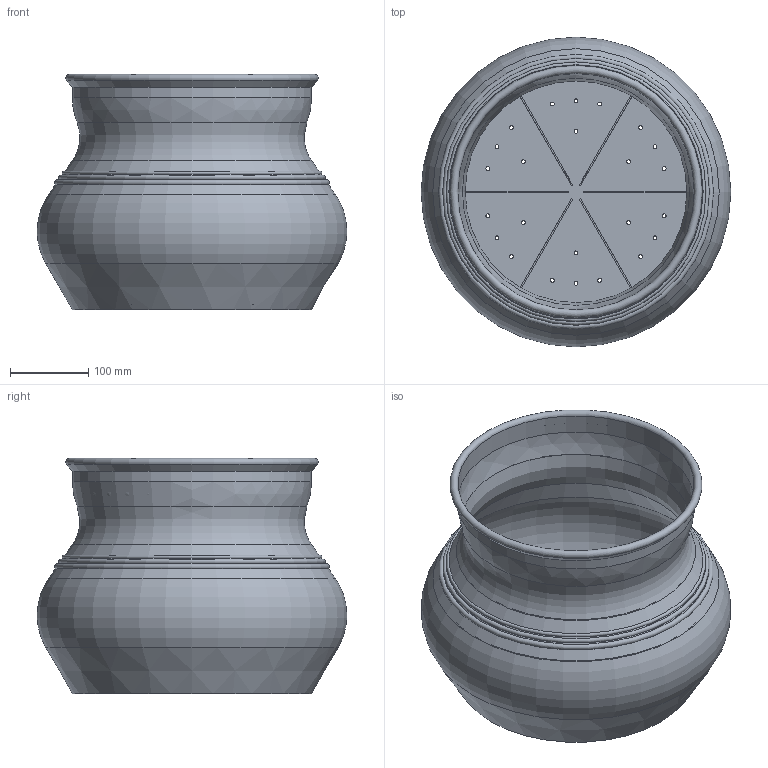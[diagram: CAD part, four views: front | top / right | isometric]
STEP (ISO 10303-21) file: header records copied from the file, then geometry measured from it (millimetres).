
FILE_DESCRIPTION(/* description */ (''),/* implementation_level */ '2;1');
FILE_NAME(/* name */ 'LR2406-S17-H300-D400_step.step',/* time_stamp */ '2024-02-01T11:04:27+01:00',/* author */ (''),/* organization */ (''),/* preprocessor_version */ 'ST-DEVELOPER v20',/* originating_system */ 'Autodesk Translation Framework v12.20.1.177',/* authorisation */ '');
FILE_SCHEMA (('AUTOMOTIVE_DESIGN { 1 0 10303 214 3 1 1 }'));
Length unit declared in the file: millimetre
Products named in the file (1): LR2406-S17-H300-D400
Bounding box: 394.61 x 394.61 x 300 mm (x, y, z)
Volume: 830216.4 mm3; surface area: 855753.4 mm2
Topology: 1 solids, 1 shells, 70 faces, 185 edges, 117 vertices
Faces by surface type: cylinder 32, plane 20, cone 8, torus 8, bspline 2
Full cylindrical faces by diameter (mm): 5 x24, 301.36 x1, 304.72 x1
Entity records: 2380 total; most frequent: DIRECTION 426, CARTESIAN_POINT 425, ORIENTED_EDGE 370, EDGE_CURVE 185, AXIS2_PLACEMENT_3D 172, EDGE_LOOP 118, VERTEX_POINT 117, CIRCLE 103
